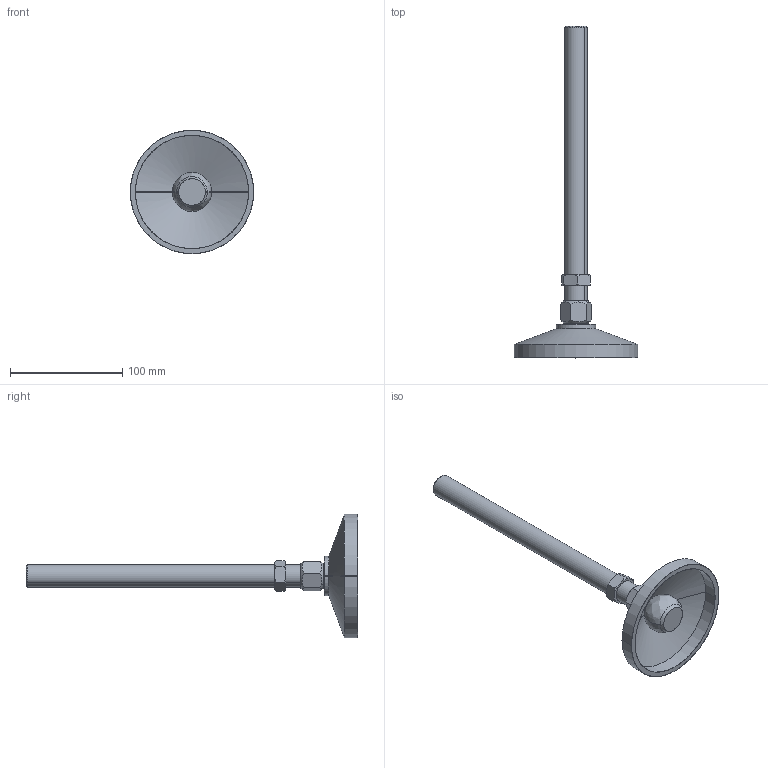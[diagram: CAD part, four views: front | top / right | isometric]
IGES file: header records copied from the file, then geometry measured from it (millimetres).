
Start section: SolidWorks IGES file using analytic representation for surfaces
Global section: file name: C:\Documents and Settings\URETIM3\Desktop\yeni katalog tolgay düzenli\A kataloðu\pabuc,saplama montajlarý\501-505 plastik pabuç ...111\paslanmaz\export\505 112 031.IGS; native system: SolidWorks 2006 by SolidWorks Corporation; preprocessor: SolidWorks 2006 by SolidWorks Corporation; author: URETIM3; date: 060911.121215; units: millimetre
Bounding box: 110 x 296 x 110 mm (x, y, z)
Surface area: 53219.4 mm2 (no closed solid volume)
Topology: 0 solids, 0 shells, 59 faces, 956 edges, 956 vertices
Faces by surface type: revolution 36, bspline 23
